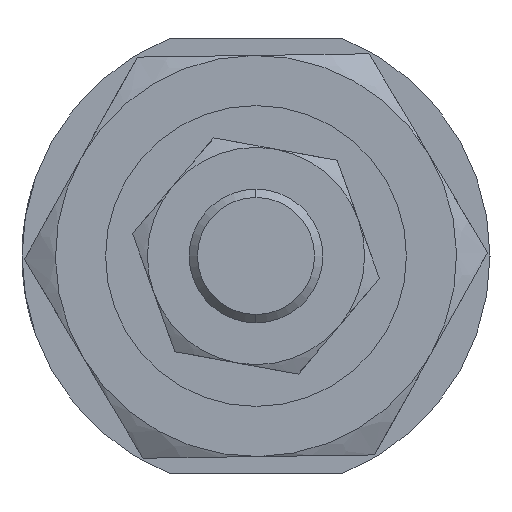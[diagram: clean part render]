
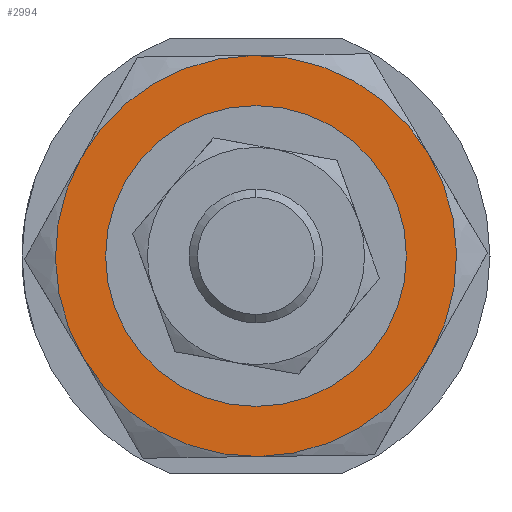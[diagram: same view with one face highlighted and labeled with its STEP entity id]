
A CAD part, left-side view. The second image highlights one B-rep face of the part: STEP entity #2994.
In plain terms, the highlighted planar face has unit normal (-1, 0, 0) as drawn and (0, 0, -1) by its records, which use the part's own axes.
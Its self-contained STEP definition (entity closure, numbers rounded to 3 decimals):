
#44 = AXIS2_PLACEMENT_3D ( 'NONE', #1907, #431, #2145 ) ;
#62 = FACE_BOUND ( 'NONE', #1077, .T. ) ;
#204 = DIRECTION ( 'NONE',  ( 1., 0., 0. ) ) ;
#259 = EDGE_LOOP ( 'NONE', ( #2919, #1279, #1587, #2136, #459, #2781 ) ) ;
#284 = CARTESIAN_POINT ( 'NONE',  ( -12., 0., -4. ) ) ;
#350 = CARTESIAN_POINT ( 'NONE',  ( 0., 0., -4. ) ) ;
#367 = EDGE_CURVE ( 'NONE', #595, #373, #1650, .T. ) ;
#373 = VERTEX_POINT ( 'NONE', #2642 ) ;
#431 = DIRECTION ( 'NONE',  ( 0., 0., 1. ) ) ;
#459 = ORIENTED_EDGE ( 'NONE', *, *, #1759, .F. ) ;
#506 = CIRCLE ( 'NONE', #2866, 12. ) ;
#595 = VERTEX_POINT ( 'NONE', #284 ) ;
#609 = DIRECTION ( 'NONE',  ( 1., 0., 0. ) ) ;
#647 = AXIS2_PLACEMENT_3D ( 'NONE', #671, #1603, #204 ) ;
#671 = CARTESIAN_POINT ( 'NONE',  ( 0., 0., -4. ) ) ;
#755 = DIRECTION ( 'NONE',  ( 1., 0., 0. ) ) ;
#876 = EDGE_CURVE ( 'NONE', #3001, #1901, #1308, .T. ) ;
#894 = VERTEX_POINT ( 'NONE', #3002 ) ;
#940 = DIRECTION ( 'NONE',  ( 1., 0., 0. ) ) ;
#1073 = ORIENTED_EDGE ( 'NONE', *, *, #2424, .T. ) ;
#1077 = EDGE_LOOP ( 'NONE', ( #1979, #1073 ) ) ;
#1279 = ORIENTED_EDGE ( 'NONE', *, *, #2372, .F. ) ;
#1281 = CARTESIAN_POINT ( 'NONE',  ( 6., 10.392, -4. ) ) ;
#1298 = DIRECTION ( 'NONE',  ( 0., 0., 1. ) ) ;
#1308 = CIRCLE ( 'NONE', #2164, 12. ) ;
#1314 = AXIS2_PLACEMENT_3D ( 'NONE', #1762, #1298, #1539 ) ;
#1341 = DIRECTION ( 'NONE',  ( 1., 0., 0. ) ) ;
#1369 = CARTESIAN_POINT ( 'NONE',  ( -6., 10.392, -4. ) ) ;
#1392 = EDGE_CURVE ( 'NONE', #373, #2911, #506, .T. ) ;
#1539 = DIRECTION ( 'NONE',  ( 1., 0., 0. ) ) ;
#1575 = AXIS2_PLACEMENT_3D ( 'NONE', #350, #2541, #1819 ) ;
#1587 = ORIENTED_EDGE ( 'NONE', *, *, #1392, .F. ) ;
#1603 = DIRECTION ( 'NONE',  ( 0., 0., 1. ) ) ;
#1617 = DIRECTION ( 'NONE',  ( 1., 0., 0. ) ) ;
#1639 = CIRCLE ( 'NONE', #2702, 8.25 ) ;
#1650 = CIRCLE ( 'NONE', #2727, 12. ) ;
#1660 = DIRECTION ( 'NONE',  ( 0., 0., 1. ) ) ;
#1759 = EDGE_CURVE ( 'NONE', #2252, #595, #2609, .T. ) ;
#1762 = CARTESIAN_POINT ( 'NONE',  ( 0., 0., -4. ) ) ;
#1806 = CARTESIAN_POINT ( 'NONE',  ( 0., 0., -4. ) ) ;
#1819 = DIRECTION ( 'NONE',  ( 1., 0., 0. ) ) ;
#1901 = VERTEX_POINT ( 'NONE', #1281 ) ;
#1907 = CARTESIAN_POINT ( 'NONE',  ( 0., 0., -4. ) ) ;
#1975 = CARTESIAN_POINT ( 'NONE',  ( -8.25, 0., -4. ) ) ;
#1979 = ORIENTED_EDGE ( 'NONE', *, *, #2925, .T. ) ;
#2015 = CARTESIAN_POINT ( 'NONE',  ( 0., 0., -4. ) ) ;
#2136 = ORIENTED_EDGE ( 'NONE', *, *, #367, .F. ) ;
#2145 = DIRECTION ( 'NONE',  ( 1., 0., 0. ) ) ;
#2164 = AXIS2_PLACEMENT_3D ( 'NONE', #1806, #2765, #1341 ) ;
#2252 = VERTEX_POINT ( 'NONE', #1369 ) ;
#2313 = AXIS2_PLACEMENT_3D ( 'NONE', #2596, #2349, #940 ) ;
#2319 = DIRECTION ( 'NONE',  ( 0., 0., 1. ) ) ;
#2349 = DIRECTION ( 'NONE',  ( 0., 0., 1. ) ) ;
#2372 = EDGE_CURVE ( 'NONE', #2911, #3001, #2536, .T. ) ;
#2416 = FACE_OUTER_BOUND ( 'NONE', #259, .T. ) ;
#2424 = EDGE_CURVE ( 'NONE', #2964, #894, #3013, .T. ) ;
#2458 = DIRECTION ( 'NONE',  ( 0., 0., 1. ) ) ;
#2509 = CARTESIAN_POINT ( 'NONE',  ( 12., 0., -4. ) ) ;
#2536 = CIRCLE ( 'NONE', #2313, 12. ) ;
#2541 = DIRECTION ( 'NONE',  ( 0., 0., 1. ) ) ;
#2596 = CARTESIAN_POINT ( 'NONE',  ( 0., 0., -4. ) ) ;
#2599 = EDGE_CURVE ( 'NONE', #1901, #2252, #3049, .T. ) ;
#2609 = CIRCLE ( 'NONE', #1314, 12. ) ;
#2642 = CARTESIAN_POINT ( 'NONE',  ( -6., -10.392, -4. ) ) ;
#2702 = AXIS2_PLACEMENT_3D ( 'NONE', #2015, #2458, #609 ) ;
#2727 = AXIS2_PLACEMENT_3D ( 'NONE', #3038, #2319, #1617 ) ;
#2765 = DIRECTION ( 'NONE',  ( 0., 0., 1. ) ) ;
#2781 = ORIENTED_EDGE ( 'NONE', *, *, #2599, .F. ) ;
#2864 = CARTESIAN_POINT ( 'NONE',  ( 0., 0., -4. ) ) ;
#2866 = AXIS2_PLACEMENT_3D ( 'NONE', #2864, #1660, #755 ) ;
#2911 = VERTEX_POINT ( 'NONE', #2951 ) ;
#2919 = ORIENTED_EDGE ( 'NONE', *, *, #876, .F. ) ;
#2925 = EDGE_CURVE ( 'NONE', #894, #2964, #1639, .T. ) ;
#2934 = PLANE ( 'NONE',  #1575 ) ;
#2951 = CARTESIAN_POINT ( 'NONE',  ( 6., -10.392, -4. ) ) ;
#2964 = VERTEX_POINT ( 'NONE', #1975 ) ;
#2994 = ADVANCED_FACE ( 'NONE', ( #62, #2416 ), #2934, .F. ) ;
#3001 = VERTEX_POINT ( 'NONE', #2509 ) ;
#3002 = CARTESIAN_POINT ( 'NONE',  ( 8.25, 0., -4. ) ) ;
#3013 = CIRCLE ( 'NONE', #647, 8.25 ) ;
#3038 = CARTESIAN_POINT ( 'NONE',  ( 0., 0., -4. ) ) ;
#3049 = CIRCLE ( 'NONE', #44, 12. ) ;
